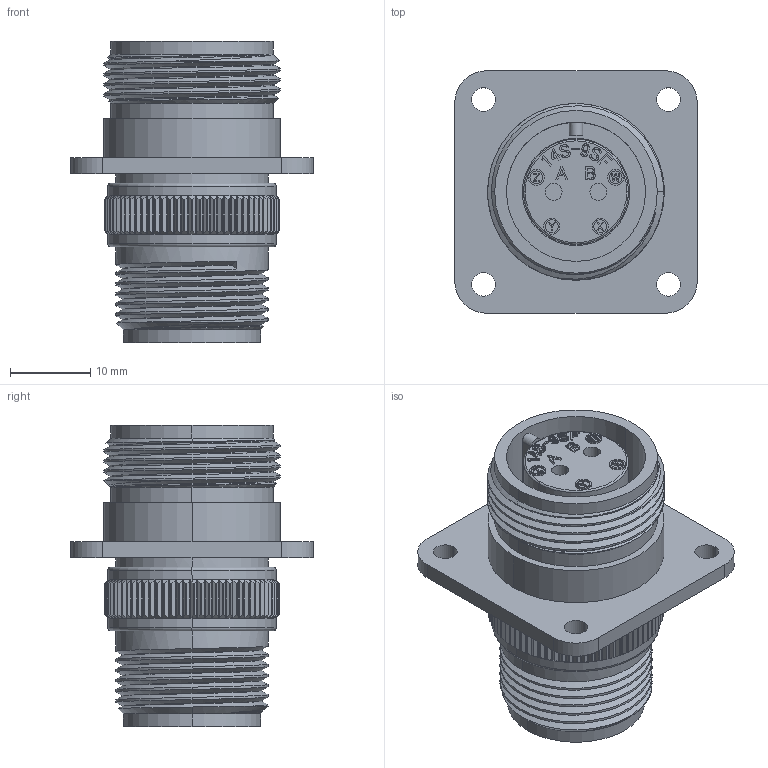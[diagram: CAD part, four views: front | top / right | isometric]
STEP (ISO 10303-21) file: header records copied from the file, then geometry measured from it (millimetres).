
FILE_DESCRIPTION (( 'STEP AP203' ), '1' );
FILE_NAME ('DMS3100A14S-9S.STEP', '2017-07-12T02:38:56', ( '' ), ( '' ), 'SwSTEP 2.0', 'SolidWorks 2015', '' );
FILE_SCHEMA (( 'CONFIG_CONTROL_DESIGN' ));
Products named in the file (1): DMS3100A14S-9S
Bounding box: 30.2 x 30.2 x 37.49 mm (x, y, z)
Volume: 8712.2 mm3; surface area: 8264 mm2
Topology: 1 solids, 1 shells, 1134 faces, 3189 edges, 2111 vertices
Faces by surface type: cylinder 469, plane 414, bspline 204, torus 28, cone 19
Entity records: 46722 total; most frequent: CARTESIAN_POINT 20336, ORIENTED_EDGE 6378, DIRECTION 4101, EDGE_CURVE 3189, VERTEX_POINT 2111, LINE 1425, VECTOR 1425, AXIS2_PLACEMENT_3D 1338
